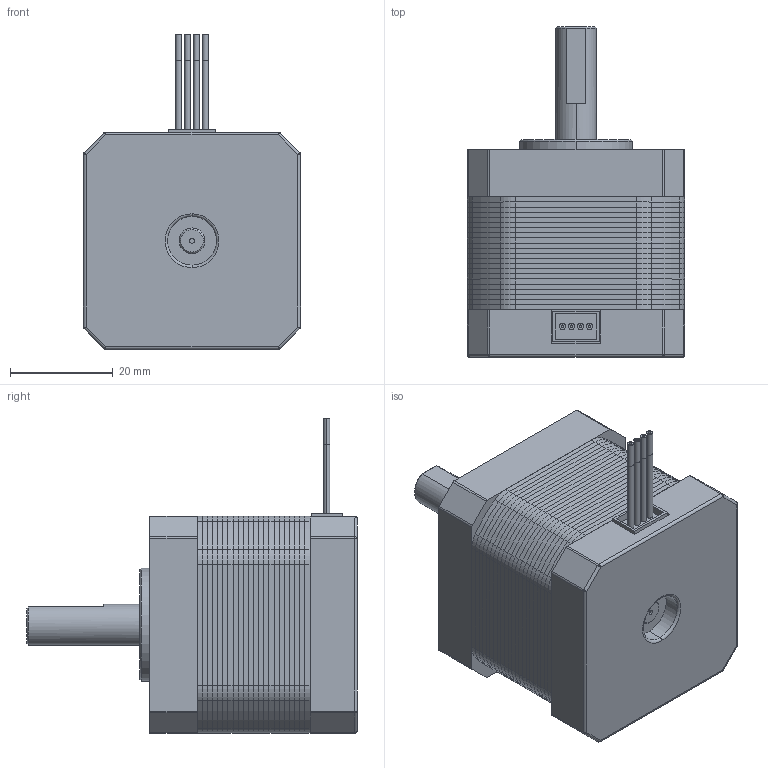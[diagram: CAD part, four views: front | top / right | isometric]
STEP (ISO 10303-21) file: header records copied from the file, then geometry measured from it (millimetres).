
FILE_DESCRIPTION (( 'STEP AP214' ), '1' );
FILE_NAME ('NEMA17_40mm_8mm_shaft.STEP', '2020-11-14T13:23:38', ( 'Moofasta' ), ( '' ), 'SwSTEP 2.0', 'SolidWorks 2020', '' );
FILE_SCHEMA (( 'AUTOMOTIVE_DESIGN' ));
Length unit declared in the file: millimetre
Products named in the file (1): NEMA17_40mm_8mm_shaft
Bounding box: 42.3 x 64.4 x 61.3 mm (x, y, z)
Volume: 70813.1 mm3; surface area: 89337.4 mm2
Topology: 33 solids, 33 shells, 561 faces, 1420 edges, 927 vertices
Faces by surface type: cylinder 340, plane 195, cone 16, sphere 8, torus 2
Entity records: 22427 total; most frequent: DIRECTION 3236, CARTESIAN_POINT 2907, ORIENTED_EDGE 2824, EDGE_CURVE 1412, AXIS2_PLACEMENT_3D 1264, VERTEX_POINT 927, VECTOR 708, LINE 708
